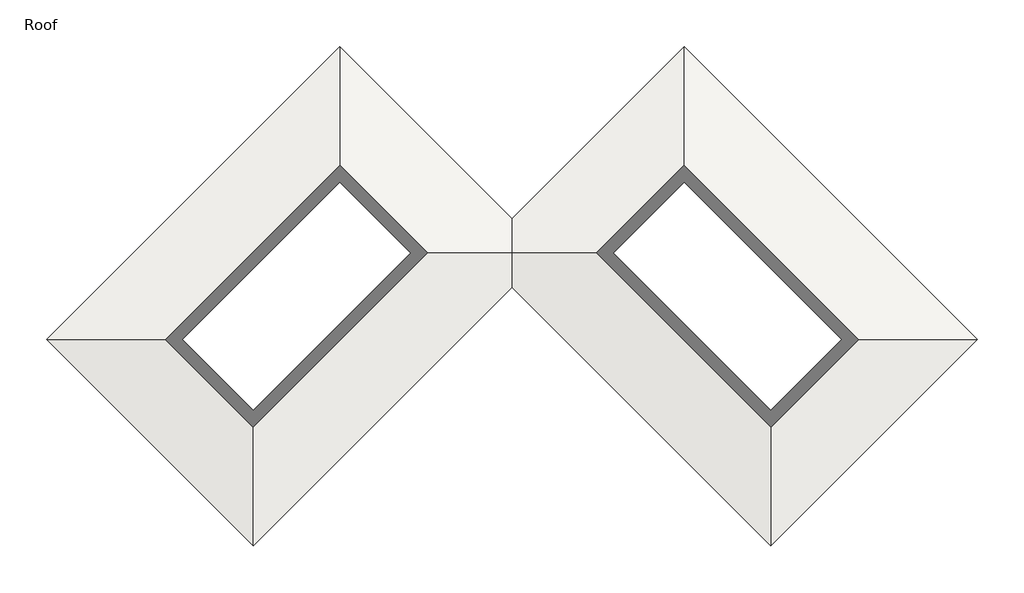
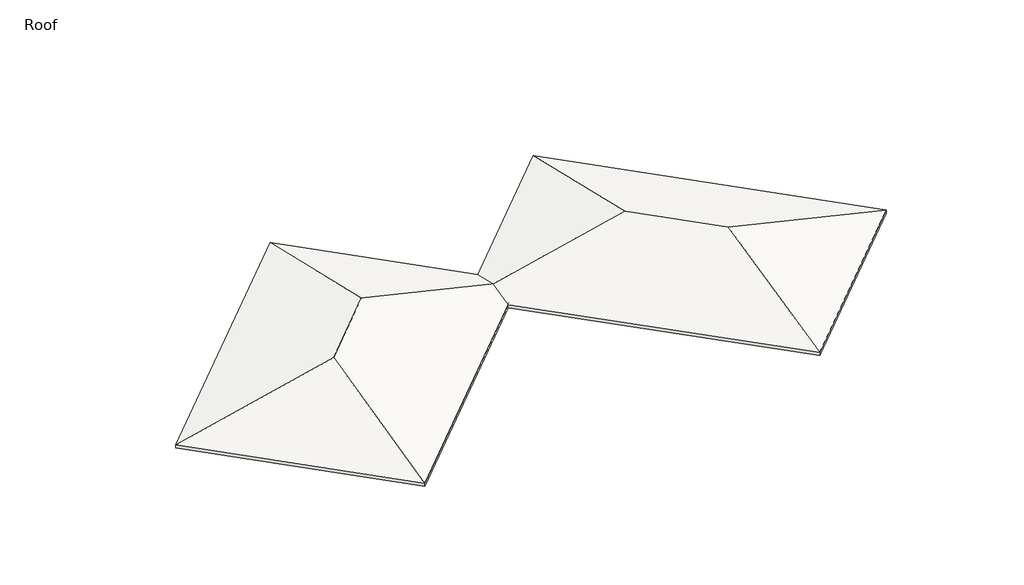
# One storey, incomplete: 6 proxies, 2 roofs.
"""IFC4 building model written with IfcOpenShell, lengths in millimetres."""

from ifc_helpers import new_model, si_unit, origin, place, context, project, spatial, faceted_brep, element, save

model = new_model("IFC4")

# Units and contexts
model_context = context("Model", 3, world=origin())
ifc_project = project(units=[si_unit("LENGTHUNIT", "METRE", prefix="MILLI")], contexts=[model_context])

# Site, building, storey
site = spatial("IfcSite", under=ifc_project)
building = spatial("IfcBuilding", under=site)
storey = spatial("IfcBuildingStorey", under=building, Name="Roof", Elevation=4572.0)

# Proxies
placement = place(None, origin())
element("IfcBuildingElementProxy", 1, Name="Wall Sweeps", at=placement, inside=storey, context=model_context, shape_type="Brep", body=[
    faceted_brep([(5753.0175119, 11034.763937, 4635.5), (5753.0175119, 11429.8952063, 4673.6), (5753.0175119, 11609.5003287, 4635.5), (5753.0175119, 11609.5003287, 4572.0), (5753.0175119, 11034.763937, 4572.0), (18145.770959, -1357.9895101, 4635.5), (18145.770959, -1357.9895101, 4572.0), (18720.5073507, -1357.9895101, 4572.0), (18720.5073507, -1357.9895101, 4635.5), (18540.9022283, -1357.9895101, 4673.6)], [[[0, 1, 2, 3, 4]], [[5, 6, 7, 8, 9]], [[1, 0, 5, 9]], [[2, 1, 9, 8]], [[3, 2, 8, 7]], [[4, 3, 7, 6]], [[0, 4, 6, 5]]]),
])
element("IfcBuildingElementProxy", 2, Name="Wall Sweeps", at=placement, inside=storey, context=model_context, shape_type="Brep", body=[
    faceted_brep([(18145.770959, -1357.9895101, 4635.5), (18540.9022283, -1357.9895101, 4673.6), (18720.5073507, -1357.9895101, 4635.5), (18720.5073507, -1357.9895101, 4572.0), (18145.770959, -1357.9895101, 4572.0), (10063.54045, -9440.2200191, 4635.5), (10063.54045, -9440.2200191, 4572.0), (10063.54045, -10014.9564108, 4572.0), (10063.54045, -10014.9564108, 4635.5), (10063.54045, -9835.3512884, 4673.6)], [[[0, 1, 2, 3, 4]], [[5, 6, 7, 8, 9]], [[1, 0, 5, 9]], [[2, 1, 9, 8]], [[3, 2, 8, 7]], [[4, 3, 7, 6]], [[0, 4, 6, 5]]]),
])
element("IfcBuildingElementProxy", 3, Name="Wall Sweeps", at=placement, inside=storey, context=model_context, shape_type="Brep", body=[
    faceted_brep([(10063.54045, -9440.2200191, 4635.5), (10063.54045, -9835.3512884, 4673.6), (10063.54045, -10014.9564108, 4635.5), (10063.54045, -10014.9564108, 4572.0), (10063.54045, -9440.2200191, 4572.0), (-1736.5160931, 2359.836524, 4635.5), (-1736.5160931, 2359.836524, 4572.0), (-1756.7216693, 2339.6309478, 4572.0), (-2005.9237767, 2090.4288404, 4572.0), (-2023.8842889, 2072.4683282, 4572.0), (-2023.8842889, 2072.4683282, 4635.5), (-1934.0817277, 2162.2708894, 4673.6)], [[[0, 1, 2, 3, 4]], [[5, 6, 7, 8, 9, 10, 11]], [[1, 0, 5, 11]], [[2, 1, 11, 10]], [[3, 2, 10, 9]], [[4, 3, 9, 8, 7, 6]], [[0, 4, 6, 5]]]),
    faceted_brep([(-2598.6206807, 3221.9411117, 4635.5), (-2796.1863153, 3024.375477, 4673.6), (-2885.9888765, 2934.5729158, 4635.5), (-2885.9888765, 2934.5729158, 4572.0), (-2598.6206807, 3221.9411117, 4572.0), (-2847.822788, 3471.143219, 4635.5), (-2847.822788, 3471.143219, 4572.0), (-3135.1909839, 3183.7750231, 4572.0), (-3135.1909839, 3183.7750231, 4635.5), (-3045.3884227, 3273.5775843, 4673.6)], [[[0, 1, 2, 3, 4]], [[5, 6, 7, 8, 9]], [[1, 0, 5, 9]], [[2, 1, 9, 8]], [[3, 2, 8, 7]], [[4, 3, 7, 6]], [[0, 4, 6, 5]]]),
])
element("IfcBuildingElementProxy", 4, Name="Wall Sweeps", at=placement, inside=storey, context=model_context, shape_type="Brep", body=[
    faceted_brep([(-3137.4360479, 3221.9411117, 4635.5), (-2939.8704133, 3024.375477, 4673.6), (-2850.0678521, 2934.5729158, 4635.5), (-2850.0678521, 2934.5729158, 4572.0), (-2868.0283643, 2952.533428, 4572.0), (-3117.2304717, 3201.7355354, 4572.0), (-3137.4360479, 3221.9411117, 4572.0), (-16069.0048623, -9709.6277027, 4635.5), (-16069.0048623, -9709.6277027, 4572.0), (-16048.799286, -9729.833279, 4572.0), (-15799.5971786, -9979.0353863, 4572.0), (-15781.6366664, -9996.9958986, 4572.0), (-15781.6366664, -9996.9958986, 4635.5), (-15871.4392276, -9907.1933374, 4673.6)], [[[0, 1, 2, 3, 4, 5, 6]], [[7, 8, 9, 10, 11, 12, 13]], [[1, 0, 7, 13]], [[2, 1, 13, 12]], [[3, 2, 12, 11]], [[6, 5, 4, 3, 11, 10, 9, 8]], [[0, 6, 8, 7]]]),
])
element("IfcBuildingElementProxy", 5, Name="Wall Sweeps", at=placement, inside=storey, context=model_context, shape_type="Brep", body=[
    faceted_brep([(-24151.2353712, -1627.3971937, 4635.5), (-24348.8010059, -1429.8315591, 4673.6), (-24438.6035671, -1340.0289979, 4635.5), (-24438.6035671, -1340.0289979, 4572.0), (-24151.2353712, -1627.3971937, 4572.0), (-11489.0742405, 11034.763937, 4635.5), (-11489.0742405, 11034.763937, 4572.0), (-11489.0742405, 11609.5003287, 4572.0), (-11489.0742405, 11609.5003287, 4635.5), (-11489.0742405, 11429.8952063, 4673.6)], [[[0, 1, 2, 3, 4]], [[5, 6, 7, 8, 9]], [[1, 0, 5, 9]], [[2, 1, 9, 8]], [[3, 2, 8, 7]], [[4, 3, 7, 6]], [[0, 4, 6, 5]]]),
])
element("IfcBuildingElementProxy", 6, Name="Wall Sweeps", at=placement, inside=storey, context=model_context, shape_type="Brep", body=[
    faceted_brep([(-11489.0742405, 11034.763937, 4635.5), (-11489.0742405, 11429.8952063, 4673.6), (-11489.0742405, 11609.5003287, 4635.5), (-11489.0742405, 11609.5003287, 4572.0), (-11489.0742405, 11034.763937, 4572.0), (-8931.8939077, 8477.5836041, 4635.5), (-8931.8939077, 8477.5836041, 4572.0), (-8911.6883314, 8497.7891804, 4572.0), (-8662.486224, 8746.9912878, 4572.0), (-8644.5257118, 8764.9518, 4572.0), (-8644.5257118, 8764.9518, 4635.5), (-8734.328273, 8675.1492388, 4673.6), (-8836.2976328, 8573.179879, 4653.9354839), (-8911.6883314, 8497.7891804, 4639.3965909)], [[[0, 1, 2, 3, 4]], [[5, 6, 7, 8, 9, 10, 11, 12, 13]], [[1, 0, 5, 13, 12, 11]], [[2, 1, 11, 10]], [[3, 2, 10, 9]], [[4, 3, 9, 8, 7, 6]], [[0, 4, 6, 5]]]),
])

# Roofs
element("IfcRoof", 7, ObjectType="Insulation on Metal Deck - EPDM", at=placement, inside=storey, context=model_context, shape_type="Brep", body=[
    faceted_brep([(-11489.0742405, 2952.533428, 6604.0), (-11489.0742405, 13297.7884795, 4165.6), (-1143.8191891, 2952.533428, 4165.6), (-26144.8522301, -1357.9895101, 4165.6), (-15799.5971786, -1357.9895101, 6604.0), (-15799.5971786, -11703.2445616, 4165.6), (-11489.0742405, 13297.7884795, 4373.0981191), (-11489.0742405, 2952.533428, 6811.4981191), (-1143.8191891, 2952.533428, 4373.0981191), (-26144.8522301, -1357.9895101, 4373.0981191), (-15799.5971786, -11703.2445616, 4373.0981191), (-15799.5971786, -1357.9895101, 6811.4981191)], [[[0, 1, 2]], [[3, 4, 5]], [[1, 0, 4, 3]], [[5, 4, 0, 2]], [[6, 7, 8]], [[9, 10, 11]], [[6, 9, 11, 7]], [[10, 8, 7, 11]], [[3, 9, 6, 1]], [[5, 10, 9, 3]], [[2, 8, 10, 5]], [[1, 6, 8, 2]]]),
])
element("IfcRoof", 8, ObjectType="Insulation on Metal Deck - EPDM", at=placement, inside=storey, context=model_context, shape_type="Brep", body=[
    faceted_brep([(5753.0175119, 13297.7884795, 4165.6), (5753.0175119, 2952.533428, 6604.0), (-4592.2375396, 2952.533428, 4165.6), (10063.54045, -11703.2445616, 4165.6), (10063.54045, -1357.9895101, 6604.0), (20408.7955015, -1357.9895101, 4165.6), (5753.0175119, 13297.7884795, 4373.0981191), (-4592.2375396, 2952.533428, 4373.0981191), (5753.0175119, 2952.533428, 6811.4981191), (10063.54045, -11703.2445616, 4373.0981191), (20408.7955015, -1357.9895101, 4373.0981191), (10063.54045, -1357.9895101, 6811.4981191)], [[[0, 1, 2]], [[3, 4, 5]], [[1, 0, 5, 4]], [[2, 1, 4, 3]], [[6, 7, 8]], [[9, 10, 11]], [[6, 8, 11, 10]], [[7, 9, 11, 8]], [[0, 6, 10, 5]], [[5, 10, 9, 3]], [[3, 9, 7, 2]], [[2, 7, 6, 0]]]),
])

save(model, "model.ifc")
